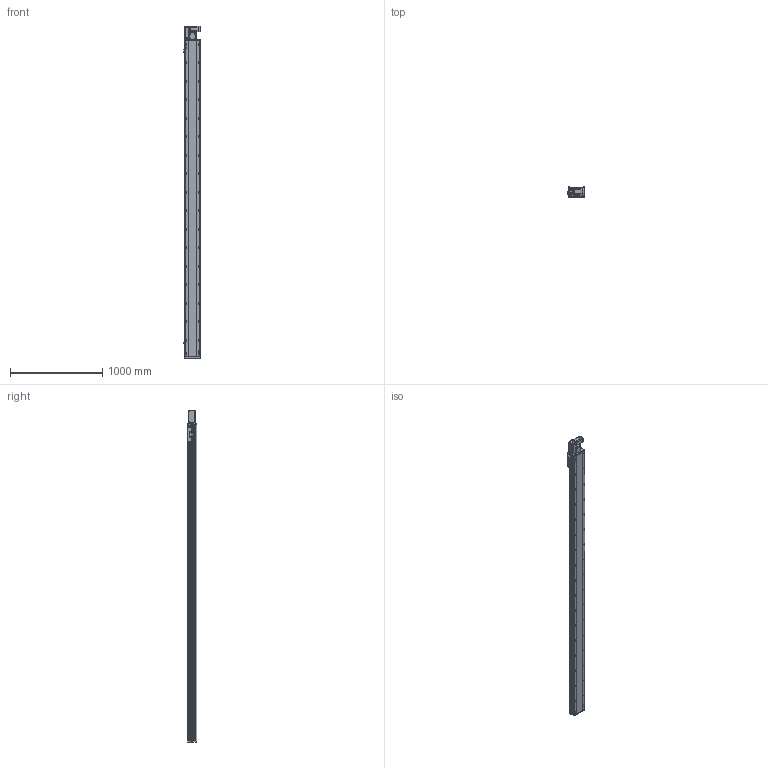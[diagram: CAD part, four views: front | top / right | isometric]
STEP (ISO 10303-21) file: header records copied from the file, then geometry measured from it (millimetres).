
FILE_DESCRIPTION (( 'STEP AP214' ), '1' );
FILE_NAME ('RTB17S-XX-3150-L-M40-C4.STEP', '2025-12-11T06:05:46', ( '' ), ( '' ), 'SwSTEP 2.0', 'SolidWorks 2018', '' );
FILE_SCHEMA (( 'AUTOMOTIVE_DESIGN' ));
Length unit declared in the file: millimetre
Products named in the file (14): RTB14-L-005P--轴承塑胶压盖^RTB17S-L-皮带座装配-400W_RTB17S-XX-XX-L-M40-C4; OMRON EE-SX672 传感器^RTB17S-XX-XX-L-M40-C4; RTB17S-L-007奻裔^RTB17S-XX-XX-L-M40-C4; RMP17S-L-014-T20--々湍釱^RTB17S-L-々湍釱蚾饜-400W_RTB17S-XX-XX-L-M40-C4; RTH13-BL-012覜茼え俋离^RTB17S-XX-XX-L-M40-C4; RTB17S-L-004佪裝蹟譫蟀諉釱^RTB17S-XX-XX-L-M40-C4; RTB17S-L-001耜醱啣^RTB17S-XX-XX-L-M40-C4; RTB17-R-011菁釱^RTB17S-XX-XX-L-M40-C4; RTB17S-XX-3150-L-M40-C4; RTB14-L-008-M20--萇儂啣^RTB17S-L-々湍釱蚾饜-400W_RTB17S-XX-XX-L-M40-C4; RTB14-L-018P^RTB17S-L-々湍釱蚾饜-400W_RTB17S-XX-XX-L-M40-C4; RTB14-L-017P^RTB17S-L-々湍釱蚾饜-400W_RTB17S-XX-XX-L-M40-C4; RTB17S-L-々湍釱蚾饜-400W^RTB17S-XX-XX-L-M40-C4; 400W侜督萇儂^RTB17S-XX-XX-L-M40-C4
Assembly tree (16 placements, depth 3):
  RTB17S-XX-3150-L-M40-C4
    RTB17-R-011菁釱^RTB17S-XX-XX-L-M40-C4
    RTB17S-L-007奻裔^RTB17S-XX-XX-L-M40-C4
    OMRON EE-SX672 传感器^RTB17S-XX-XX-L-M40-C4  x3
    RTB17S-L-001耜醱啣^RTB17S-XX-XX-L-M40-C4
    400W侜督萇儂^RTB17S-XX-XX-L-M40-C4
    RTB17S-L-004佪裝蹟譫蟀諉釱^RTB17S-XX-XX-L-M40-C4
    RTH13-BL-012覜茼え俋离^RTB17S-XX-XX-L-M40-C4
    RTB17S-L-々湍釱蚾饜-400W^RTB17S-XX-XX-L-M40-C4
      RMP17S-L-014-T20--々湍釱^RTB17S-L-々湍釱蚾饜-400W_RTB17S-XX-XX-L-M40-C4
      RTB14-L-005P--轴承塑胶压盖^RTB17S-L-皮带座装配-400W_RTB17S-XX-XX-L-M40-C4
      RTB14-L-008-M20--萇儂啣^RTB17S-L-々湍釱蚾饜-400W_RTB17S-XX-XX-L-M40-C4
      RTB14-L-017P^RTB17S-L-々湍釱蚾饜-400W_RTB17S-XX-XX-L-M40-C4  x2
      RTB14-L-018P^RTB17S-L-々湍釱蚾饜-400W_RTB17S-XX-XX-L-M40-C4
Bounding box: 186 x 108 x 3591 mm (x, y, z)
Volume: 29907410.5 mm3; surface area: 3410041.3 mm2
Topology: 15 solids, 15 shells, 2381 faces, 6681 edges, 4365 vertices
Faces by surface type: plane 1090, cylinder 843, bspline 301, cone 139, torus 8
Entity records: 71081 total; most frequent: CARTESIAN_POINT 20286, ORIENTED_EDGE 10206, DIRECTION 9386, EDGE_CURVE 5103, VERTEX_POINT 3353, AXIS2_PLACEMENT_3D 3283, LINE 2820, VECTOR 2820
